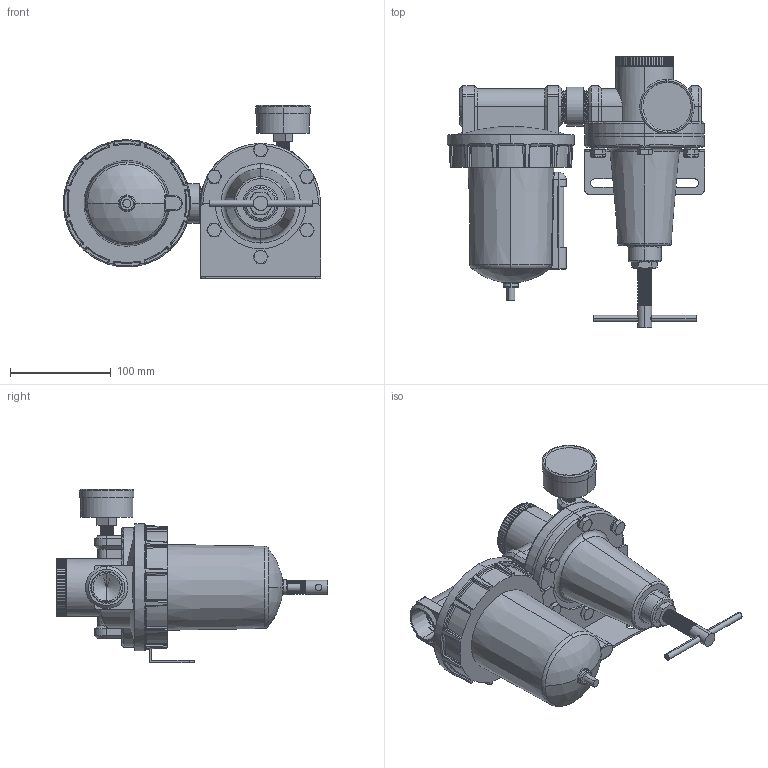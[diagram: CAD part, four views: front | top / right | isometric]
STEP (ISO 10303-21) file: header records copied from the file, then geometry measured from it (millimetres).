
FILE_DESCRIPTION (( 'STEP AP203' ), '1' );
FILE_NAME ('U628#W-08#YB#.STEP', '2016-02-16T06:47:39', ( 'Toshiba' ), ( 'Toshiba' ), 'SwSTEP 2.0', 'SolidWorks 2014', '' );
FILE_SCHEMA (( 'CONFIG_CONTROL_DESIGN' ));
Length unit declared in the file: millimetre
Products named in the file (19): KW18B57; R119-08-3; L606-W-06-5; 50-P-AD=1-4PT-1; R119-06-7; R119-06-1; R119-06-5; 50-P-AD=1-4PT-2; 50-P-AD=1-4PT.SLDPRT; R119-06-4; R119-06-2; R119-06-6; F602W-08#YB#; F602W-08; L606-W-06-2; R119-08; U628#W-08#YB#; ISO 4014 - M8
Assembly tree (23 placements, depth 4):
  U628#W-08#YB#
    F602W-08#YB#
      F602W-08
      L606-W-06-2
      L606-W-06-5
    R119-08
      R119-06-1
      R119-06-2
      R119-08-3
      R119-06-4
      R119-06-5
      R119-06-6
      ISO 4014 - M8  x6
      R119-06-7
      50-P-AD=1-4PT.SLDPRT
        50-P-AD=1-4PT-1
        50-P-AD=1-4PT-2
      KW18B57
    (unnamed)
Bounding box: 255 x 269 x 171.5 mm (x, y, z)
Volume: 2067585.3 mm3; surface area: 281089.4 mm2
Topology: 21 solids, 21 shells, 1220 faces, 2930 edges, 1726 vertices
Faces by surface type: plane 397, cylinder 324, cone 274, bspline 127, torus 69, sphere 29
Entity records: 51499 total; most frequent: CARTESIAN_POINT 26242, ORIENTED_EDGE 5160, DIRECTION 4524, EDGE_CURVE 2580, AXIS2_PLACEMENT_3D 1870, VERTEX_POINT 1555, EDGE_LOOP 1119, FACE_OUTER_BOUND 1075
